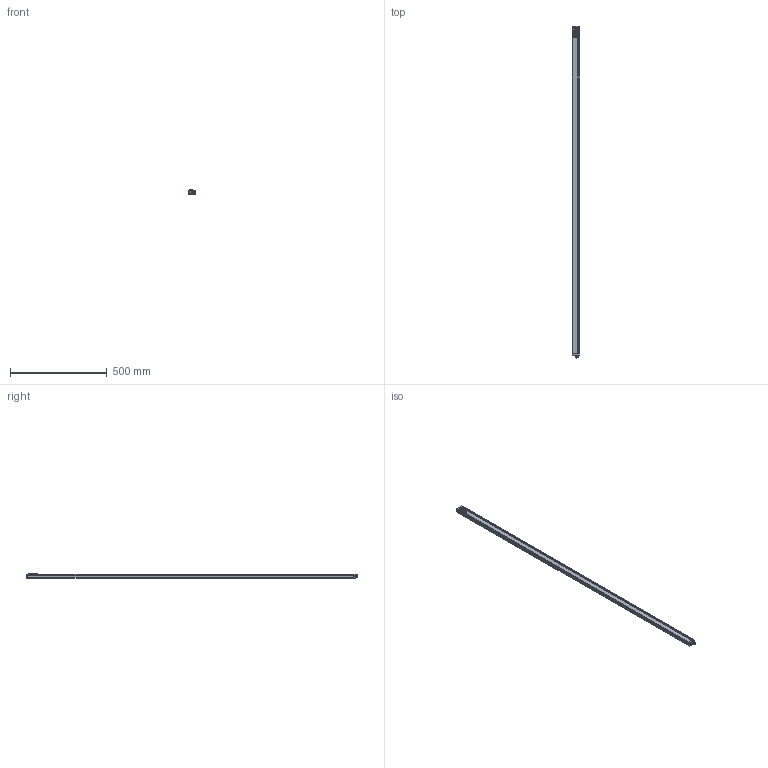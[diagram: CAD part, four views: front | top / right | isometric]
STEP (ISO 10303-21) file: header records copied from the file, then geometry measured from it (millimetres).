
FILE_DESCRIPTION(/* description */ (''),/* implementation_level */ '2;1');
FILE_NAME(/* name */ 'C:\Users\andre\SynologyDrive\Optoscan\Libreria Componenti\00 - Barriere\Barriera sorgente\Argo_1680_RX.stp',/* time_stamp */ '2021-04-22T12:17:16+02:00',/* author */ ('andre'),/* organization */ (''),/* preprocessor_version */ 'ST-DEVELOPER v18',/* originating_system */ 'Autodesk Inventor 2020',/* authorisation */ '');
FILE_SCHEMA (('AUTOMOTIVE_DESIGN { 1 0 10303 214 3 1 1 }'));
Length unit declared in the file: millimetre
Products named in the file (1): Argo_1680_RX
Bounding box: 40.5 x 1713.3 x 20.75 mm (x, y, z)
Volume: 338273.8 mm3; surface area: 447755.8 mm2
Topology: 1 solids, 1 shells, 692 faces, 1898 edges, 1217 vertices
Faces by surface type: plane 319, cylinder 195, bspline 94, torus 70, cone 8, sphere 6
Full cylindrical faces by diameter (mm): 1 x4, 2.459 x4, 2.5 x4, 3 x4, 3.5 x4, 5.5 x4, 8 x1, 10.5 x2, 11.75 x9, 15.7 x1, 17.5 x1
Entity records: 28165 total; most frequent: CARTESIAN_POINT 10195, ORIENTED_EDGE 3778, DIRECTION 3387, EDGE_CURVE 1889, VERTEX_POINT 1217, AXIS2_PLACEMENT_3D 1183, LINE 1021, VECTOR 1021
